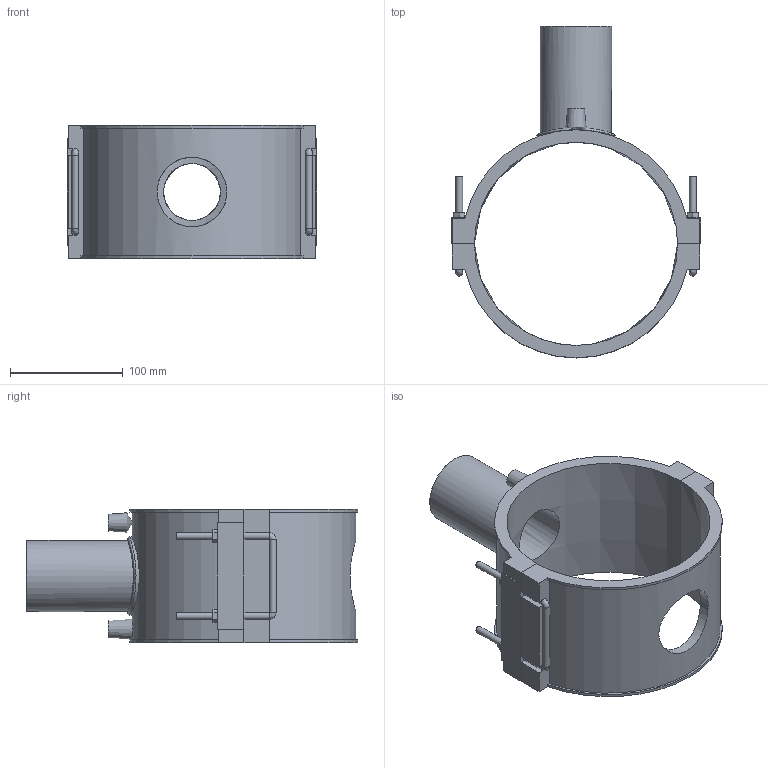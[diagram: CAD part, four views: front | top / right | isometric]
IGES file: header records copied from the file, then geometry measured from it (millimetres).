
Global section: file name: 495804180063.ipt; native system: Autodesk Inventor 2015; preprocessor: unknown; author: KIM; date: 20180426.120857; units: millimetre
Bounding box: 221 x 293.98 x 118 mm (x, y, z)
Volume: 842043.3 mm3; surface area: 210345.9 mm2
Topology: 2 solids, 2 shells, 129 faces, 328 edges, 206 vertices
Faces by surface type: plane 85, cylinder 22, bspline 9, cone 7, revolution 6
Full cylindrical faces by diameter (mm): 4 x2, 6 x10, 63 x1, 69.3 x1
